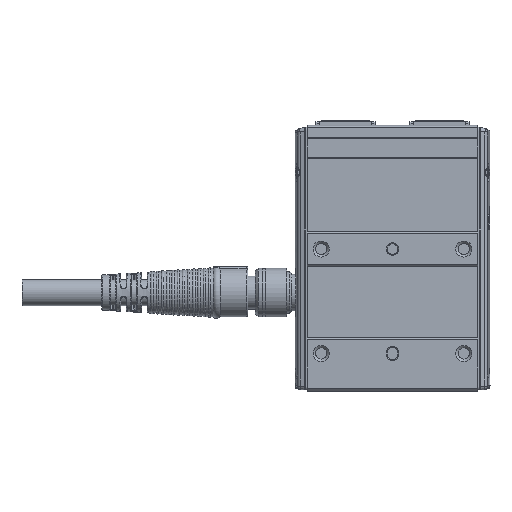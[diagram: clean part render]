
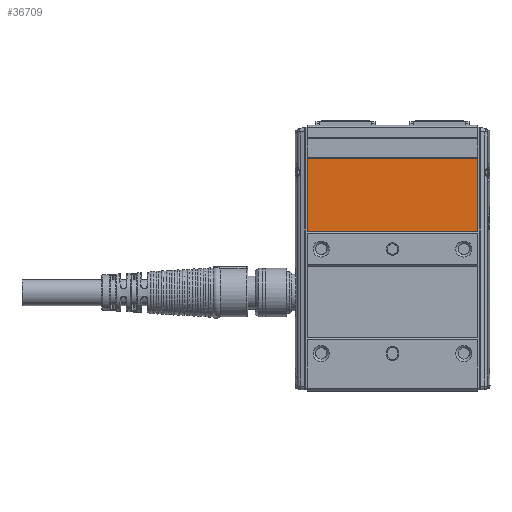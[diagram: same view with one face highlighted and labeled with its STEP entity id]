
A CAD part, front view. The second image highlights one B-rep face of the part: STEP entity #36709.
In plain terms, the highlighted planar face has unit normal (0, -1, 0).
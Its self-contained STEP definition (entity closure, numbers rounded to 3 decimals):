
#7504=FACE_OUTER_BOUND('',#9658,.T.);
#9658=EDGE_LOOP('',(#32144,#32145,#32146,#32147));
#11979=LINE('',#71403,#14389);
#11989=LINE('',#71452,#14399);
#12138=LINE('',#72118,#14548);
#12147=LINE('',#72135,#14557);
#14389=VECTOR('',#48996,10.);
#14399=VECTOR('',#49036,10.);
#14548=VECTOR('',#49697,10.);
#14557=VECTOR('',#49722,10.);
#17542=VERTEX_POINT('',#71400);
#17543=VERTEX_POINT('',#71402);
#17566=VERTEX_POINT('',#71449);
#17567=VERTEX_POINT('',#71451);
#22331=EDGE_CURVE('',#17542,#17543,#11979,.T.);
#22355=EDGE_CURVE('',#17566,#17567,#11989,.T.);
#22658=EDGE_CURVE('',#17566,#17543,#12138,.T.);
#22667=EDGE_CURVE('',#17542,#17567,#12147,.T.);
#32144=ORIENTED_EDGE('',*,*,#22667,.T.);
#32145=ORIENTED_EDGE('',*,*,#22355,.F.);
#32146=ORIENTED_EDGE('',*,*,#22658,.T.);
#32147=ORIENTED_EDGE('',*,*,#22331,.F.);
#34979=PLANE('',#40436);
#36709=ADVANCED_FACE('',(#7504),#34979,.T.);
#40436=AXIS2_PLACEMENT_3D('',#72144,#49737,#49738);
#48996=DIRECTION('',(0.,0.,1.));
#49036=DIRECTION('',(0.,0.,-1.));
#49697=DIRECTION('',(-1.,0.,0.));
#49722=DIRECTION('',(1.,0.,0.));
#49737=DIRECTION('center_axis',(0.,-1.,0.));
#49738=DIRECTION('ref_axis',(0.,0.,
-1.));
#71400=CARTESIAN_POINT('',(-24.5,-13.5,46.));
#71402=CARTESIAN_POINT('',(-24.5,-13.5,67.));
#71403=CARTESIAN_POINT('',(-24.5,-13.5,76.5));
#71449=CARTESIAN_POINT('',(24.5,-13.5,67.));
#71451=CARTESIAN_POINT('',(24.5,-13.5,46.));
#71452=CARTESIAN_POINT('',(24.5,-13.5,76.5));
#72118=CARTESIAN_POINT('',(0.,-13.5,67.));
#72135=CARTESIAN_POINT('',(0.,-13.5,46.));
#72144=CARTESIAN_POINT('Origin',(0.,-13.5,76.5));
